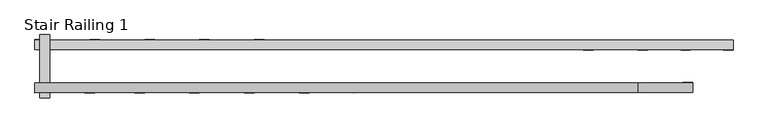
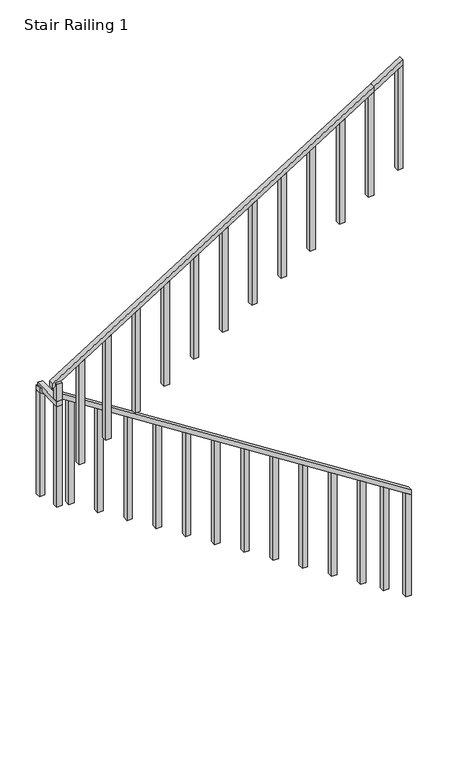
"""IFC4 building model written with IfcOpenShell, lengths in millimetres: railing geometry, Stair Railing 1."""

from ifc_helpers import new_model, si_unit, frame, origin, place, context, project, spatial, polyline, outline, extrude, source, transform, mapped, element, save


def stair_railing_1_1af9ef93(model_context):
    return source(origin(), model_context, "Body", "SweptSolid", [
        extrude(outline(polyline([(9002.8888889, -65613.320296), (8952.0888889, -65613.320296), (6677.3777778, -62054.8461136), (6728.1777778, -62054.8461136), (9002.8888889, -65613.320296)])), frame((0.0, 32657.381749, 0.0), z_axis=(0.0, 1.0, 0.0), x_axis=(0.0, 0.0, 1.0)), (0.0, 0.0, 1.0), 50.8),
        extrude(outline(polyline([(6709.8510566, -62105.6461136), (5661.3777778, -62105.6461136), (5661.3777778, -62054.8461136), (6677.3777778, -62054.8461136), (6709.8510566, -62105.6461136)])), frame((0.0, 32657.381749, 0.0), z_axis=(0.0, 1.0, 0.0), x_axis=(0.0, 0.0, 1.0)), (0.0, 0.0, 1.0), 50.8),
        extrude(outline(polyline([(6848.6532872, -62322.7832048), (5800.1800084, -62322.7832048), (5800.1800084, -62271.9832048), (6816.1800084, -62271.9832048), (6848.6532872, -62322.7832048)])), frame((0.0, 32657.381749, 0.0), z_axis=(0.0, 1.0, 0.0), x_axis=(0.0, 0.0, 1.0)), (0.0, 0.0, 1.0), 50.8),
        extrude(outline(polyline([(6987.4555178, -62539.920296), (5938.9822389, -62539.920296), (5938.9822389, -62489.120296), (6954.9822389, -62489.120296), (6987.4555178, -62539.920296)])), frame((0.0, 32657.381749, 0.0), z_axis=(0.0, 1.0, 0.0), x_axis=(0.0, 0.0, 1.0)), (0.0, 0.0, 1.0), 50.8),
        extrude(outline(polyline([(7166.0585515, -62819.320296), (6117.5852727, -62819.320296), (6117.5852727, -62768.520296), (7133.5852727, -62768.520296), (7166.0585515, -62819.320296)])), frame((0.0, 32657.381749, 0.0), z_axis=(0.0, 1.0, 0.0), x_axis=(0.0, 0.0, 1.0)), (0.0, 0.0, 1.0), 50.8),
        extrude(outline(polyline([(7344.6615853, -63098.720296), (6296.1883064, -63098.720296), (6296.1883064, -63047.920296), (7312.1883064, -63047.920296), (7344.6615853, -63098.720296)])), frame((0.0, 32657.381749, 0.0), z_axis=(0.0, 1.0, 0.0), x_axis=(0.0, 0.0, 1.0)), (0.0, 0.0, 1.0), 50.8),
        extrude(outline(polyline([(7523.264619, -63378.120296), (6474.7913401, -63378.120296), (6474.7913401, -63327.320296), (7490.7913401, -63327.320296), (7523.264619, -63378.120296)])), frame((0.0, 32657.381749, 0.0), z_axis=(0.0, 1.0, 0.0), x_axis=(0.0, 0.0, 1.0)), (0.0, 0.0, 1.0), 50.8),
        extrude(outline(polyline([(7701.8676527, -63657.520296), (6653.3943739, -63657.520296), (6653.3943739, -63606.720296), (7669.3943739, -63606.720296), (7701.8676527, -63657.520296)])), frame((0.0, 32657.381749, 0.0), z_axis=(0.0, 1.0, 0.0), x_axis=(0.0, 0.0, 1.0)), (0.0, 0.0, 1.0), 50.8),
        extrude(outline(polyline([(7880.4706865, -63936.920296), (6831.9974076, -63936.920296), (6831.9974076, -63886.120296), (7847.9974076, -63886.120296), (7880.4706865, -63936.920296)])), frame((0.0, 32657.381749, 0.0), z_axis=(0.0, 1.0, 0.0), x_axis=(0.0, 0.0, 1.0)), (0.0, 0.0, 1.0), 50.8),
        extrude(outline(polyline([(8059.0737202, -64216.320296), (7010.6004413, -64216.320296), (7010.6004413, -64165.520296), (8026.6004413, -64165.520296), (8059.0737202, -64216.320296)])), frame((0.0, 32657.381749, 0.0), z_axis=(0.0, 1.0, 0.0), x_axis=(0.0, 0.0, 1.0)), (0.0, 0.0, 1.0), 50.8),
        extrude(outline(polyline([(8237.6767539, -64495.720296), (7189.2034751, -64495.720296), (7189.2034751, -64444.920296), (8205.2034751, -64444.920296), (8237.6767539, -64495.720296)])), frame((0.0, 32657.381749, 0.0), z_axis=(0.0, 1.0, 0.0), x_axis=(0.0, 0.0, 1.0)), (0.0, 0.0, 1.0), 50.8),
        extrude(outline(polyline([(8416.2797877, -64775.120296), (7367.8065088, -64775.120296), (7367.8065088, -64724.320296), (8383.8065088, -64724.320296), (8416.2797877, -64775.120296)])), frame((0.0, 32657.381749, 0.0), z_axis=(0.0, 1.0, 0.0), x_axis=(0.0, 0.0, 1.0)), (0.0, 0.0, 1.0), 50.8),
        extrude(outline(polyline([(8594.8828214, -65054.520296), (7546.4095426, -65054.520296), (7546.4095426, -65003.720296), (8562.4095426, -65003.720296), (8594.8828214, -65054.520296)])), frame((0.0, 32657.381749, 0.0), z_axis=(0.0, 1.0, 0.0), x_axis=(0.0, 0.0, 1.0)), (0.0, 0.0, 1.0), 50.8),
        extrude(outline(polyline([(8773.4858552, -65333.920296), (7725.0125763, -65333.920296), (7725.0125763, -65283.120296), (8741.0125763, -65283.120296), (8773.4858552, -65333.920296)])), frame((0.0, 32657.381749, 0.0), z_axis=(0.0, 1.0, 0.0), x_axis=(0.0, 0.0, 1.0)), (0.0, 0.0, 1.0), 50.8),
        extrude(outline(polyline([(8952.0888889, -65613.320296), (7903.61561, -65613.320296), (7903.61561, -65562.520296), (8919.61561, -65562.520296), (8952.0888889, -65613.320296)])), frame((0.0, 32657.381749, 0.0), z_axis=(0.0, 1.0, 0.0), x_axis=(0.0, 0.0, 1.0)), (0.0, 0.0, 1.0), 50.8),
        extrude(outline(polyline([(-65537.120296, 32412.2982705), (-65587.920296, 32412.2982705), (-65587.920296, 32733.581749), (-65537.120296, 32733.581749), (-65537.120296, 32412.2982705)])), frame((0.0, 0.0, 8952.0888889), z_axis=(0.0, 0.0, 1.0), x_axis=(1.0, 0.0, 0.0)), (0.0, 0.0, 1.0), 50.8),
        extrude(outline(polyline([(-65587.920296, 32463.0982705), (-65537.120296, 32463.0982705), (-65537.120296, 32412.2982705), (-65587.920296, 32412.2982705), (-65587.920296, 32463.0982705)])), frame((0.0, 0.0, 7936.0888889), z_axis=(0.0, 0.0, 1.0), x_axis=(1.0, 0.0, 0.0)), (0.0, 0.0, 1.0), 1241.7777778),
        extrude(outline(polyline([(11051.8222222, -62539.920296), (11102.6222222, -62539.920296), (9177.8666667, -65613.320296), (9127.0666667, -65613.320296), (11051.8222222, -62539.920296)])), frame((0.0, 32437.6982705, 0.0), z_axis=(0.0, 1.0, 0.0), x_axis=(0.0, 0.0, 1.0)), (0.0, 0.0, 1.0), 50.8),
        extrude(outline(polyline([(9286.1373737, -65359.320296), (8270.1373737, -65359.320296), (8270.1373737, -65308.520296), (9317.9515152, -65308.520296), (9286.1373737, -65359.320296)])), frame((0.0, 32437.6982705, 0.0), z_axis=(0.0, 1.0, 0.0), x_axis=(0.0, 0.0, 1.0)), (0.0, 0.0, 1.0), 50.8),
        extrude(outline(polyline([(9445.2080808, -65105.320296), (8429.2080808, -65105.320296), (8429.2080808, -65054.520296), (9477.0222222, -65054.520296), (9445.2080808, -65105.320296)])), frame((0.0, 32437.6982705, 0.0), z_axis=(0.0, 1.0, 0.0), x_axis=(0.0, 0.0, 1.0)), (0.0, 0.0, 1.0), 50.8),
        extrude(outline(polyline([(9620.1858586, -64825.920296), (8604.1858586, -64825.920296), (8604.1858586, -64775.120296), (9652.0, -64775.120296), (9620.1858586, -64825.920296)])), frame((0.0, 32437.6982705, 0.0), z_axis=(0.0, 1.0, 0.0), x_axis=(0.0, 0.0, 1.0)), (0.0, 0.0, 1.0), 50.8),
        extrude(outline(polyline([(9795.1636364, -64546.520296), (8779.1636364, -64546.520296), (8779.1636364, -64495.720296), (9826.9777778, -64495.720296), (9795.1636364, -64546.520296)])), frame((0.0, 32437.6982705, 0.0), z_axis=(0.0, 1.0, 0.0), x_axis=(0.0, 0.0, 1.0)), (0.0, 0.0, 1.0), 50.8),
        extrude(outline(polyline([(9970.1414141, -64267.120296), (8954.1414141, -64267.120296), (8954.1414141, -64216.320296), (10001.9555556, -64216.320296), (9970.1414141, -64267.120296)])), frame((0.0, 32437.6982705, 0.0), z_axis=(0.0, 1.0, 0.0), x_axis=(0.0, 0.0, 1.0)), (0.0, 0.0, 1.0), 50.8),
        extrude(outline(polyline([(10145.1191919, -63987.720296), (9129.1191919, -63987.720296), (9129.1191919, -63936.920296), (10176.9333333, -63936.920296), (10145.1191919, -63987.720296)])), frame((0.0, 32437.6982705, 0.0), z_axis=(0.0, 1.0, 0.0), x_axis=(0.0, 0.0, 1.0)), (0.0, 0.0, 1.0), 50.8),
        extrude(outline(polyline([(10320.0969697, -63708.320296), (9304.0969697, -63708.320296), (9304.0969697, -63657.520296), (10351.9111111, -63657.520296), (10320.0969697, -63708.320296)])), frame((0.0, 32437.6982705, 0.0), z_axis=(0.0, 1.0, 0.0), x_axis=(0.0, 0.0, 1.0)), (0.0, 0.0, 1.0), 50.8),
        extrude(outline(polyline([(10495.0747475, -63428.920296), (9479.0747475, -63428.920296), (9479.0747475, -63378.120296), (10526.8888889, -63378.120296), (10495.0747475, -63428.920296)])), frame((0.0, 32437.6982705, 0.0), z_axis=(0.0, 1.0, 0.0), x_axis=(0.0, 0.0, 1.0)), (0.0, 0.0, 1.0), 50.8),
        extrude(outline(polyline([(10670.0525253, -63149.520296), (9654.0525253, -63149.520296), (9654.0525253, -63098.720296), (10701.8666667, -63098.720296), (10670.0525253, -63149.520296)])), frame((0.0, 32437.6982705, 0.0), z_axis=(0.0, 1.0, 0.0), x_axis=(0.0, 0.0, 1.0)), (0.0, 0.0, 1.0), 50.8),
        extrude(outline(polyline([(10845.030303, -62870.120296), (9829.030303, -62870.120296), (9829.030303, -62819.320296), (10876.8444444, -62819.320296), (10845.030303, -62870.120296)])), frame((0.0, 32437.6982705, 0.0), z_axis=(0.0, 1.0, 0.0), x_axis=(0.0, 0.0, 1.0)), (0.0, 0.0, 1.0), 50.8),
        extrude(outline(polyline([(11020.0080808, -62590.720296), (10004.0080808, -62590.720296), (10004.0080808, -62539.920296), (11051.8222222, -62539.920296), (11020.0080808, -62590.720296)])), frame((0.0, 32437.6982705, 0.0), z_axis=(0.0, 1.0, 0.0), x_axis=(0.0, 0.0, 1.0)), (0.0, 0.0, 1.0), 50.8),
        extrude(outline(polyline([(11226.8, -62260.520296), (11277.6, -62260.520296), (11102.6222222, -62539.920296), (11051.8222222, -62539.920296), (11226.8, -62260.520296)])), frame((0.0, 32437.6982705, 0.0), z_axis=(0.0, 1.0, 0.0), x_axis=(0.0, 0.0, 1.0)), (0.0, 0.0, 1.0), 50.8),
        extrude(outline(polyline([(11194.9858586, -62311.320296), (10178.9858586, -62311.320296), (10178.9858586, -62260.520296), (11226.8, -62260.520296), (11194.9858586, -62311.320296)])), frame((0.0, 32437.6982705, 0.0), z_axis=(0.0, 1.0, 0.0), x_axis=(0.0, 0.0, 1.0)), (0.0, 0.0, 1.0), 50.8),
    ])


if __name__ == "__main__":
    model = new_model("IFC4")
    model_context = context("Model", 3, world=origin())
    ifc_project = project(units=[si_unit("LENGTHUNIT", "METRE", prefix="MILLI")], contexts=[model_context])
    site = spatial("IfcSite", under=ifc_project)
    building = spatial("IfcBuilding", under=site)
    placement = place(None, origin())
    stair_railing_1_shape = stair_railing_1_1af9ef93(model_context)
    element("IfcRailing", 1, ObjectType="Stair Railing 1", at=placement, inside=building, context=model_context, shape_type="MappedRepresentation", body=[
        mapped(stair_railing_1_shape, transform((0.0, 0.0, 0.0), x_axis=(1.0, 0.0, 0.0), y_axis=(0.0, 1.0, 0.0), z_axis=(0.0, 0.0, 1.0))),
    ])
    save(model, "model.ifc")
